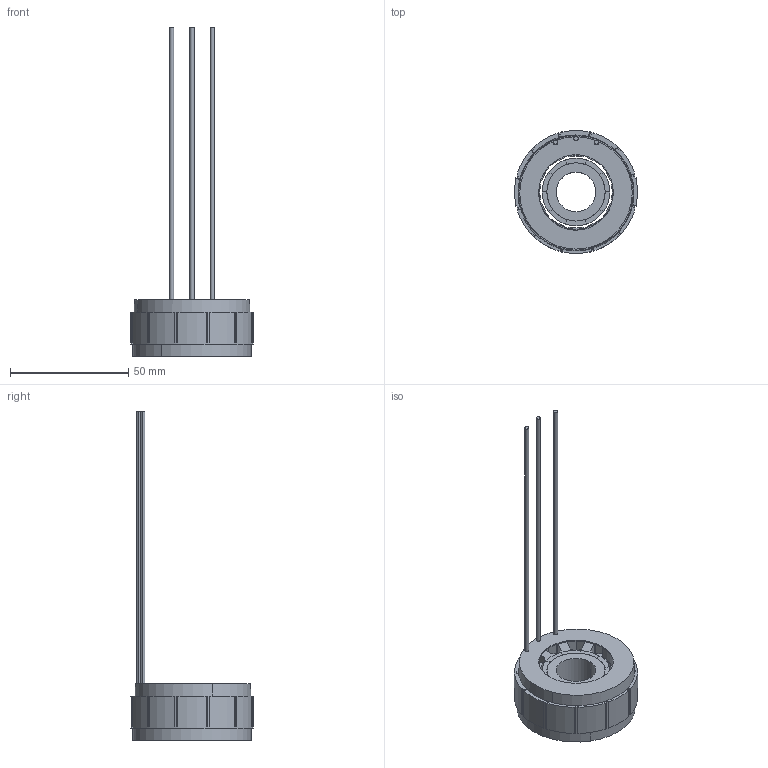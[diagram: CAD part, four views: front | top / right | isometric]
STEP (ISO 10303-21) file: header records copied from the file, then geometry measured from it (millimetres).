
FILE_DESCRIPTION (( 'STEP AP203' ), '1' );
FILE_NAME ('307050051SS （SMR52-1538D10ENL） -V02.STEP', '2022-12-08T05:12:35', ( 'muse' ), ( 'muse' ), 'SwSTEP 2.0', 'SolidWorks 2022', '' );
FILE_SCHEMA (( 'CONFIG_CONTROL_DESIGN' ));
Length unit declared in the file: millimetre
Products named in the file (4): 零件29; 转子铁芯52L15.5; 磁钢52l15.5; 307050051SS （SMR52-1538D10ENL） -V02
Assembly tree (12 placements, depth 2):
  307050051SS （SMR52-1538D10ENL） -V02
    零件29
    磁钢52l15.5  x10
    转子铁芯52L15.5
Bounding box: 51.95 x 51.95 x 138.9 mm (x, y, z)
Volume: 26208.1 mm3; surface area: 26099.9 mm2
Topology: 25 solids, 25 shells, 483 faces, 1281 edges, 852 vertices
Faces by surface type: plane 315, cylinder 158, cone 6, torus 4
Entity records: 14267 total; most frequent: CARTESIAN_POINT 2397, DIRECTION 2361, ORIENTED_EDGE 2346, EDGE_CURVE 1173, LINE 873, VECTOR 873, VERTEX_POINT 780, AXIS2_PLACEMENT_3D 744
